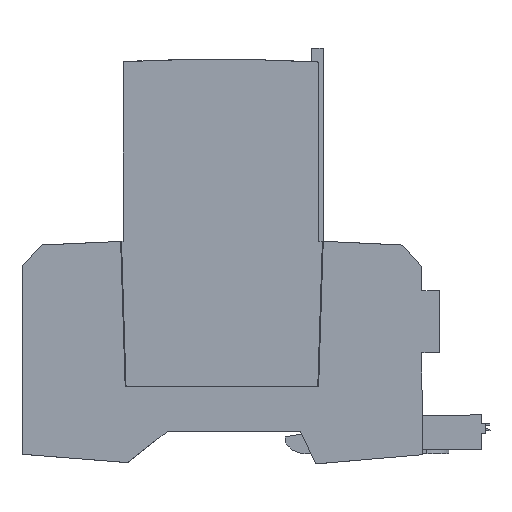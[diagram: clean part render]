
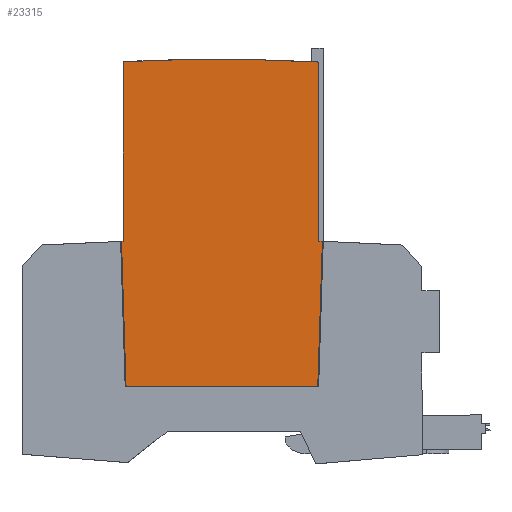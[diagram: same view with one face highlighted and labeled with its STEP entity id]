
A CAD part, left-side view. The second image highlights one B-rep face of the part: STEP entity #23315.
In plain terms, the highlighted planar face has unit normal (-1, 0, 0).
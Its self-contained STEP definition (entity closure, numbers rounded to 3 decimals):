
#3209=DIRECTION('',(0.,-0.999,-0.047));
#3210=VECTOR('',#3209,0.879);
#3211=CARTESIAN_POINT('',(0.05,38.55,50.17));
#3212=LINE('',#3211,#3210);
#5529=DIRECTION('',(0.,0.999,-0.045));
#5530=VECTOR('',#5529,0.382);
#5531=CARTESIAN_POINT('',(0.05,82.55,50.117));
#5532=LINE('',#5531,#5530);
#6207=DIRECTION('',(0.,0.031,1.));
#6208=VECTOR('',#6207,32.721);
#6209=CARTESIAN_POINT('',(0.05,81.909,17.395));
#6210=LINE('',#6209,#6208);
#6214=DIRECTION('',(0.,0.032,-0.999));
#6215=VECTOR('',#6214,32.75);
#6216=CARTESIAN_POINT('',(0.05,37.672,50.129));
#6217=LINE('',#6216,#6215);
#6221=DIRECTION('',(0.,-1.,0.));
#6222=VECTOR('',#6221,43.2);
#6223=CARTESIAN_POINT('',(0.05,81.909,17.395));
#6224=LINE('',#6223,#6222);
#6270=DIRECTION('',(0.,0.,1.));
#6271=VECTOR('',#6270,40.479);
#6272=CARTESIAN_POINT('',(0.05,82.55,50.117));
#6273=LINE('',#6272,#6271);
#6580=CARTESIAN_POINT('',(0.05,61.297,-308.839));
#6581=DIRECTION('',(1.,0.,0.));
#6582=DIRECTION('',(0.,0.053,0.999));
#6583=AXIS2_PLACEMENT_3D('',#6580,#6581,#6582);
#7177=DIRECTION('',(0.,0.,-1.));
#7178=VECTOR('',#7177,40.343);
#7179=CARTESIAN_POINT('',(0.05,38.55,90.513));
#7180=LINE('',#7179,#7178);
#17328=CARTESIAN_POINT('',(0.05,81.909,17.395));
#17329=CARTESIAN_POINT('',(0.05,38.709,17.395));
#17330=VERTEX_POINT('',#17328);
#17331=VERTEX_POINT('',#17329);
#17344=CARTESIAN_POINT('',(0.05,82.55,50.117));
#17345=CARTESIAN_POINT('',(0.05,82.931,50.099));
#17346=VERTEX_POINT('',#17344);
#17347=VERTEX_POINT('',#17345);
#17348=CARTESIAN_POINT('',(0.05,82.55,90.596));
#17349=VERTEX_POINT('',#17348);
#17350=CARTESIAN_POINT('',(0.05,38.55,90.513));
#17351=VERTEX_POINT('',#17350);
#17352=CARTESIAN_POINT('',(0.05,38.55,50.17));
#17353=VERTEX_POINT('',#17352);
#17354=CARTESIAN_POINT('',(0.05,37.672,50.129));
#17355=VERTEX_POINT('',#17354);
#23296=CARTESIAN_POINT('',(0.05,0.,0.));
#23297=DIRECTION('',(-1.,0.,0.));
#23298=DIRECTION('',(0.,0.,1.));
#23299=AXIS2_PLACEMENT_3D('',#23296,#23297,#23298);
#23300=PLANE('',#23299);
#23301=ORIENTED_EDGE('',*,*,#23277,.T.);
#23302=ORIENTED_EDGE('',*,*,#21857,.F.);
#23304=ORIENTED_EDGE('',*,*,#23303,.T.);
#23306=ORIENTED_EDGE('',*,*,#23305,.T.);
#23308=ORIENTED_EDGE('',*,*,#23307,.T.);
#23309=ORIENTED_EDGE('',*,*,#20248,.T.);
#23311=ORIENTED_EDGE('',*,*,#23310,.T.);
#23312=ORIENTED_EDGE('',*,*,#19437,.F.);
#23313=EDGE_LOOP('',(#23301,#23302,#23304,#23306,#23308,#23309,#23311,#23312));
#23314=FACE_OUTER_BOUND('',#23313,.F.);
#6584=CIRCLE('',#6583,400.);
#19437=EDGE_CURVE('',#17330,#17331,#6224,.T.);
#20248=EDGE_CURVE('',#17353,#17355,#3212,.T.);
#21857=EDGE_CURVE('',#17346,#17347,#5532,.T.);
#23277=EDGE_CURVE('',#17330,#17347,#6210,.T.);
#23303=EDGE_CURVE('',#17346,#17349,#6273,.T.);
#23305=EDGE_CURVE('',#17349,#17351,#6584,.T.);
#23307=EDGE_CURVE('',#17351,#17353,#7180,.T.);
#23310=EDGE_CURVE('',#17355,#17331,#6217,.T.);
#23315=ADVANCED_FACE('',(#23314),#23300,.T.);
